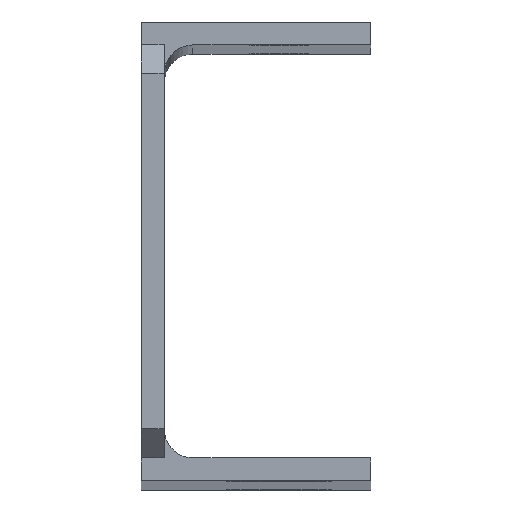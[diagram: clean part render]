
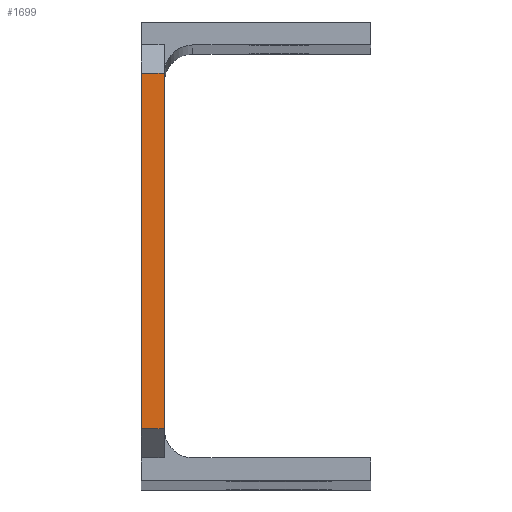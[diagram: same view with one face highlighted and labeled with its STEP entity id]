
A CAD part, top view. The second image highlights one B-rep face of the part: STEP entity #1699.
In plain terms, the highlighted planar face has unit normal (0, 0, 1).
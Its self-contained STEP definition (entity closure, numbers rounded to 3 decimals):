
#63 = VECTOR ( 'NONE', #2118, 1000. ) ;
#76 = ORIENTED_EDGE ( 'NONE', *, *, #746, .T. ) ;
#127 = EDGE_LOOP ( 'NONE', ( #472, #76, #1027, #1777 ) ) ;
#183 = CARTESIAN_POINT ( 'NONE',  ( 0., 0., 992. ) ) ;
#263 = VERTEX_POINT ( 'NONE', #1756 ) ;
#273 = DIRECTION ( 'NONE',  ( 1., 0., 0. ) ) ;
#278 = VECTOR ( 'NONE', #1518, 1000. ) ;
#331 = DIRECTION ( 'NONE',  ( 0., 0., 1. ) ) ;
#332 = DIRECTION ( 'NONE',  ( 0., 1., 0. ) ) ;
#457 = CARTESIAN_POINT ( 'NONE',  ( 4., 9., 992. ) ) ;
#472 = ORIENTED_EDGE ( 'NONE', *, *, #2185, .F. ) ;
#597 = CARTESIAN_POINT ( 'NONE',  ( 0., 71., 992. ) ) ;
#683 = FACE_OUTER_BOUND ( 'NONE', #127, .T. ) ;
#699 = VERTEX_POINT ( 'NONE', #457 ) ;
#746 = EDGE_CURVE ( 'NONE', #263, #699, #2145, .T. ) ;
#810 = EDGE_CURVE ( 'NONE', #699, #2155, #1888, .T. ) ;
#966 = VECTOR ( 'NONE', #332, 1000. ) ;
#1027 = ORIENTED_EDGE ( 'NONE', *, *, #810, .T. ) ;
#1100 = CARTESIAN_POINT ( 'NONE',  ( 4., 71., 992. ) ) ;
#1247 = LINE ( 'NONE', #597, #63 ) ;
#1355 = CARTESIAN_POINT ( 'NONE',  ( 0., 0., 992. ) ) ;
#1393 = VERTEX_POINT ( 'NONE', #1753 ) ;
#1518 = DIRECTION ( 'NONE',  ( 0., 1., 0. ) ) ;
#1523 = CARTESIAN_POINT ( 'NONE',  ( 4., 0., 992. ) ) ;
#1699 = ADVANCED_FACE ( 'NONE', ( #683 ), #2065, .T. ) ;
#1753 = CARTESIAN_POINT ( 'NONE',  ( 0., 71., 992. ) ) ;
#1756 = CARTESIAN_POINT ( 'NONE',  ( 0., 9., 992. ) ) ;
#1777 = ORIENTED_EDGE ( 'NONE', *, *, #1861, .T. ) ;
#1785 = CARTESIAN_POINT ( 'NONE',  ( 4., 9., 992. ) ) ;
#1788 = VECTOR ( 'NONE', #273, 1000. ) ;
#1861 = EDGE_CURVE ( 'NONE', #2155, #1393, #1247, .T. ) ;
#1868 = DIRECTION ( 'NONE',  ( 1., 0., 0. ) ) ;
#1876 = LINE ( 'NONE', #183, #278 ) ;
#1888 = LINE ( 'NONE', #1523, #966 ) ;
#2065 = PLANE ( 'NONE',  #2128 ) ;
#2118 = DIRECTION ( 'NONE',  ( -1., 0., 0. ) ) ;
#2128 = AXIS2_PLACEMENT_3D ( 'NONE', #1355, #331, #1868 ) ;
#2145 = LINE ( 'NONE', #1785, #1788 ) ;
#2155 = VERTEX_POINT ( 'NONE', #1100 ) ;
#2185 = EDGE_CURVE ( 'NONE', #263, #1393, #1876, .T. ) ;
